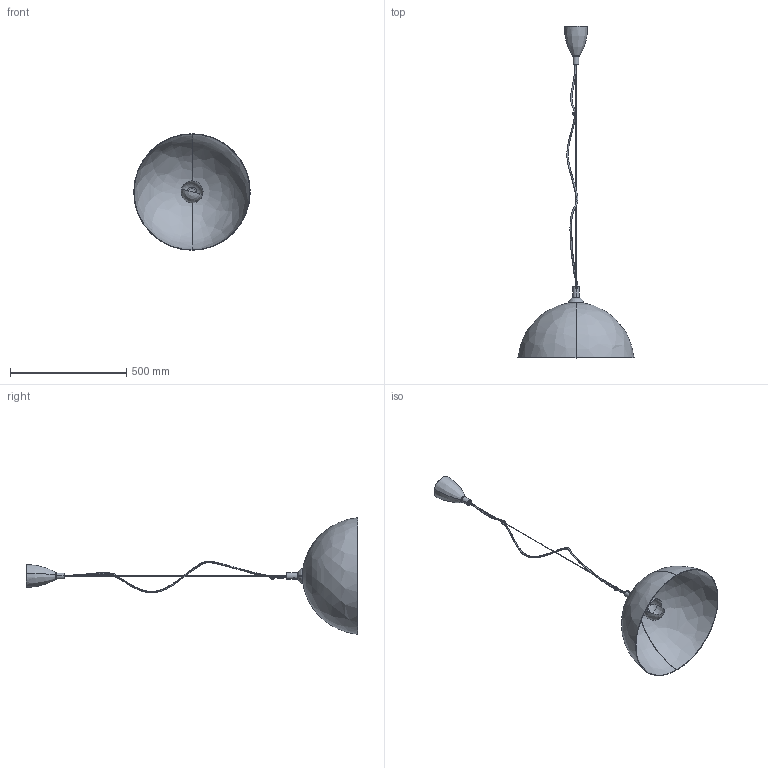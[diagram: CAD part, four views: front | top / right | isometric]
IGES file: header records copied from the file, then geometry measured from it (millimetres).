
Start section: SolidWorks IGES file using analytic representation for surfaces
Global section: file name: E:\3D lampy\Hemisphere\Hemisphere 50 cm.IGS; native system: SolidWorks 2016; preprocessor: SolidWorks 2016; author: Asia; date: 161021.163834; units: millimetre
Bounding box: 500 x 1427.16 x 500 mm (x, y, z)
Surface area: 897529 mm2 (no closed solid volume)
Topology: 0 solids, 0 shells, 240 faces, 3557 edges, 3545 vertices
Faces by surface type: bspline 149, revolution 91
